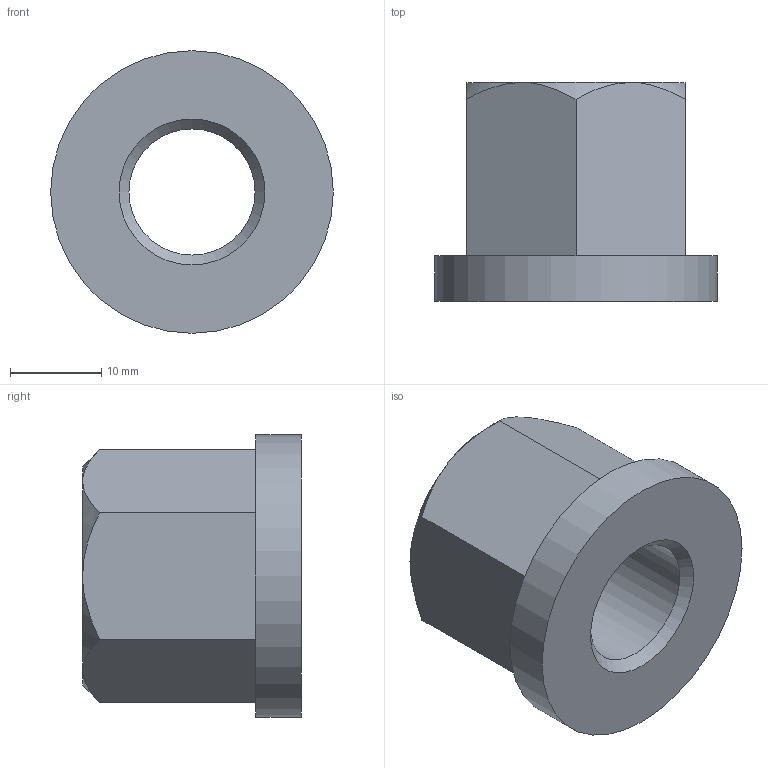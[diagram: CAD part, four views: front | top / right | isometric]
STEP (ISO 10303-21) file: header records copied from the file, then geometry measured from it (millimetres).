
FILE_DESCRIPTION( ( 'STEP AP203' ), '1' );
FILE_NAME( 'C:/Temp/Ganter_Step_05_03_2020/data/3_2/din6331/Hexagon nut DIN 6331-M16.stp', '2020-03-13T05:16:16', ( 'License CC BY-ND 4.0' ), ( 'CADENAS' ), ' ', 'PARTsolutions', ' ' );
FILE_SCHEMA( ( 'CONFIG_CONTROL_DESIGN' ) );
Length unit declared in the file: millimetre
Products named in the file (1): _Hexagon nut DIN 6331-M16
Bounding box: 31 x 24 x 31 mm (x, y, z)
Volume: 9564.1 mm3; surface area: 4232.8 mm2
Topology: 1 solids, 1 shells, 19 faces, 41 edges, 25 vertices
Faces by surface type: plane 9, cone 8, cylinder 2
Full cylindrical faces by diameter (mm): 13.835 x1, 31 x1
Entity records: 590 total; most frequent: CARTESIAN_POINT 164, DIRECTION 76, ORIENTED_EDGE 72, EDGE_CURVE 36, AXIS2_PLACEMENT_3D 32, EDGE_LOOP 26, VERTEX_POINT 24, FACE_OUTER_BOUND 21
